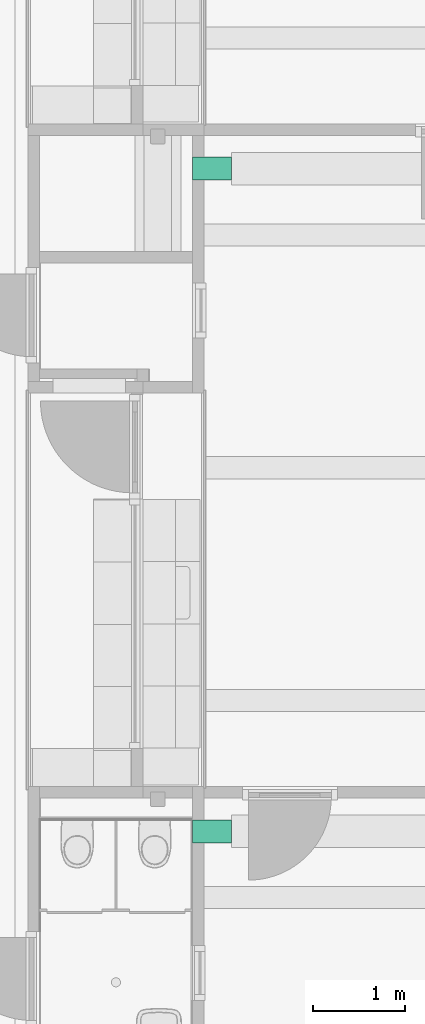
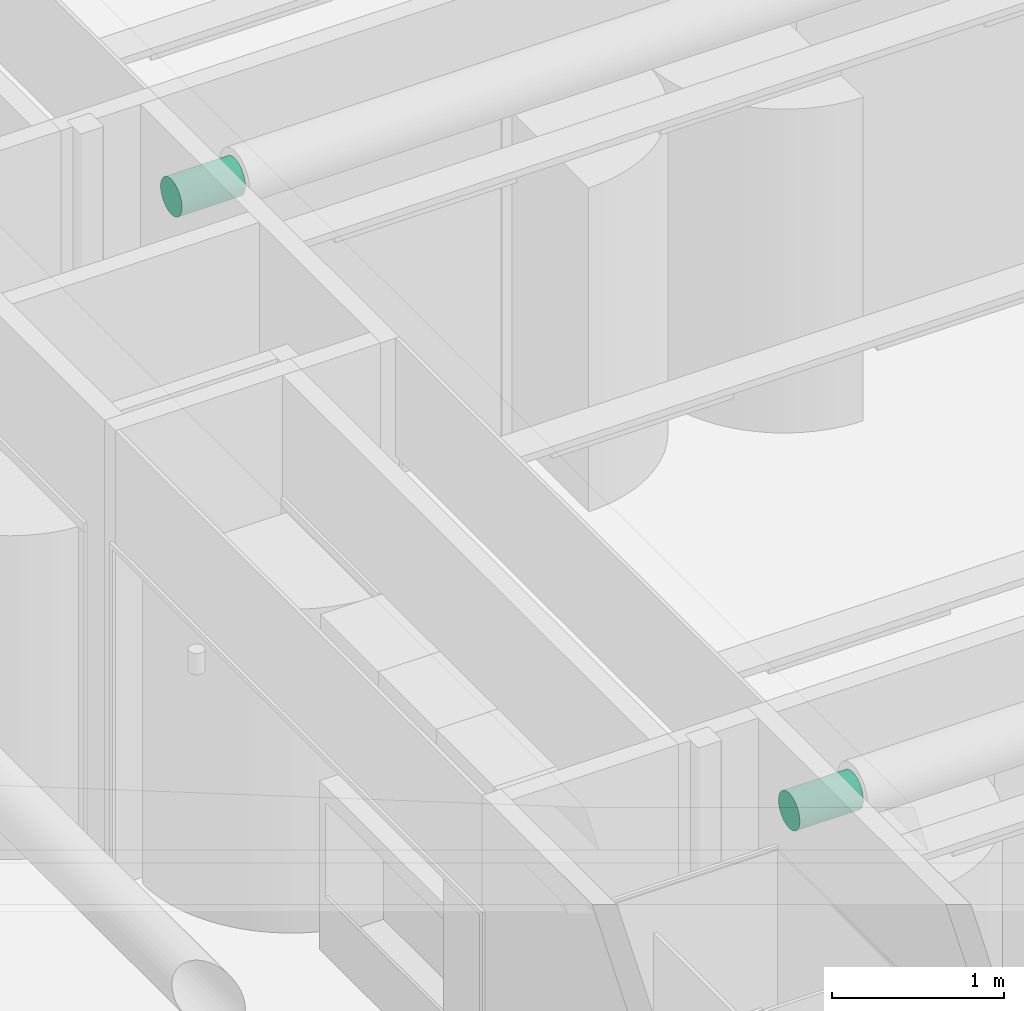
# One storey, part 78 of 128: 2 distribution control elements.
"""IFC2X3 building model written with IfcOpenShell, lengths in millimetres."""

from ifc_helpers import new_model, entity, si_unit, converted_unit, derived_unit, direction, frame, origin, origin_2d_with_axis, place, context, subcontext, project, spatial, circle, extrude, source, transform, mapped, material, type_object, type_shapes, element, save


model = new_model("IFC2X3")

# Units and contexts
model_context = context("Model", 3, precision=0.01, world=origin(), true_north=direction((6.123031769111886e-17, 1.0)))
body_context = subcontext(model_context, "Body", "Model", "MODEL_VIEW")
ifc_project = project(units=[si_unit("LENGTHUNIT", "METRE", prefix="MILLI"), si_unit("AREAUNIT", "SQUARE_METRE"), si_unit("VOLUMEUNIT", "CUBIC_METRE"), converted_unit("PLANEANGLEUNIT", "DEGREE", entity("IfcRatioMeasure", 0.017453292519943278), si_unit("PLANEANGLEUNIT", "RADIAN"), dimensions=[0, 0, 0, 0, 0, 0, 0]), si_unit("MASSUNIT", "GRAM", prefix="KILO"), derived_unit("MASSDENSITYUNIT", [(si_unit("MASSUNIT", "GRAM", prefix="KILO"), 1), (si_unit("LENGTHUNIT", "METRE"), -3)]), derived_unit("IONCONCENTRATIONUNIT", [(si_unit("MASSUNIT", "GRAM", prefix="KILO"), 1), (si_unit("LENGTHUNIT", "METRE"), -3)]), derived_unit("MOMENTOFINERTIAUNIT", [(si_unit("LENGTHUNIT", "METRE"), 4)]), si_unit("TIMEUNIT", "SECOND"), si_unit("FREQUENCYUNIT", "HERTZ"), si_unit("THERMODYNAMICTEMPERATUREUNIT", "DEGREE_CELSIUS"), derived_unit("THERMALTRANSMITTANCEUNIT", [(si_unit("MASSUNIT", "GRAM", prefix="KILO"), 1), (si_unit("THERMODYNAMICTEMPERATUREUNIT", "KELVIN"), -1), (si_unit("TIMEUNIT", "SECOND"), -3)]), derived_unit("THERMALCONDUCTANCEUNIT", [(si_unit("MASSUNIT", "GRAM", prefix="KILO"), 1), (si_unit("THERMODYNAMICTEMPERATUREUNIT", "KELVIN"), -1), (si_unit("TIMEUNIT", "SECOND"), -3), (si_unit("LENGTHUNIT", "METRE"), 1)]), derived_unit("VOLUMETRICFLOWRATEUNIT", [(si_unit("LENGTHUNIT", "METRE"), 3), (si_unit("TIMEUNIT", "SECOND"), -1)]), derived_unit("MASSFLOWRATEUNIT", [(si_unit("MASSUNIT", "GRAM", prefix="KILO"), 1), (si_unit("TIMEUNIT", "SECOND"), -1)]), derived_unit("ROTATIONALFREQUENCYUNIT", [(si_unit("TIMEUNIT", "SECOND"), -1)]), si_unit("ELECTRICCURRENTUNIT", "AMPERE"), si_unit("ELECTRICVOLTAGEUNIT", "VOLT"), si_unit("POWERUNIT", "WATT"), si_unit("FORCEUNIT", "NEWTON", prefix="KILO"), si_unit("ILLUMINANCEUNIT", "LUX"), si_unit("LUMINOUSFLUXUNIT", "LUMEN"), si_unit("LUMINOUSINTENSITYUNIT", "CANDELA"), derived_unit("USERDEFINED", [(si_unit("MASSUNIT", "GRAM", prefix="KILO"), -1), (si_unit("LENGTHUNIT", "METRE"), -2), (si_unit("TIMEUNIT", "SECOND"), 3), (si_unit("LUMINOUSFLUXUNIT", "LUMEN"), 1)]), derived_unit("USERDEFINED", [(si_unit("MASSUNIT", "GRAM", prefix="KILO"), 1), (si_unit("TIMEUNIT", "SECOND"), -3), (si_unit("LENGTHUNIT", "METRE"), 3), (si_unit("ELECTRICCURRENTUNIT", "AMPERE"), -2)]), derived_unit("SOUNDPOWERUNIT", [(si_unit("MASSUNIT", "GRAM", prefix="KILO"), 1), (si_unit("TIMEUNIT", "SECOND"), -3), (si_unit("LENGTHUNIT", "METRE"), 2)]), derived_unit("SOUNDPRESSUREUNIT", [(si_unit("MASSUNIT", "GRAM", prefix="KILO"), 1), (si_unit("LENGTHUNIT", "METRE"), -1), (si_unit("TIMEUNIT", "SECOND"), -2)]), derived_unit("LINEARVELOCITYUNIT", [(si_unit("LENGTHUNIT", "METRE"), 1), (si_unit("TIMEUNIT", "SECOND"), -1)]), si_unit("PRESSUREUNIT", "PASCAL"), derived_unit("USERDEFINED", [(si_unit("MASSUNIT", "GRAM", prefix="KILO"), 1), (si_unit("LENGTHUNIT", "METRE"), -2), (si_unit("TIMEUNIT", "SECOND"), -2)]), derived_unit("LINEARFORCEUNIT", [(si_unit("MASSUNIT", "GRAM", prefix="KILO"), 1), (si_unit("TIMEUNIT", "SECOND"), -2)]), derived_unit("PLANARFORCEUNIT", [(si_unit("MASSUNIT", "GRAM", prefix="KILO"), 1), (si_unit("LENGTHUNIT", "METRE"), -1), (si_unit("TIMEUNIT", "SECOND"), -2)]), derived_unit("SPECIFICHEATCAPACITYUNIT", [(si_unit("THERMODYNAMICTEMPERATUREUNIT", "KELVIN"), -1), (si_unit("LENGTHUNIT", "METRE"), 2), (si_unit("TIMEUNIT", "SECOND"), -2)]), derived_unit("HEATINGVALUEUNIT", [(si_unit("LENGTHUNIT", "METRE"), 2), (si_unit("TIMEUNIT", "SECOND"), -2)]), derived_unit("VAPORPERMEABILITYUNIT", [(si_unit("LENGTHUNIT", "METRE"), -1), (si_unit("TIMEUNIT", "SECOND"), 1)]), derived_unit("DYNAMICVISCOSITYUNIT", [(si_unit("MASSUNIT", "GRAM", prefix="KILO"), 1), (si_unit("TIMEUNIT", "SECOND"), -1), (si_unit("LENGTHUNIT", "METRE"), -1)]), derived_unit("THERMALEXPANSIONCOEFFICIENTUNIT", [(si_unit("THERMODYNAMICTEMPERATUREUNIT", "KELVIN"), -1)]), derived_unit("MODULUSOFELASTICITYUNIT", [(si_unit("MASSUNIT", "GRAM", prefix="KILO"), 1), (si_unit("LENGTHUNIT", "METRE"), -1), (si_unit("TIMEUNIT", "SECOND"), -2)]), derived_unit("ISOTHERMALMOISTURECAPACITYUNIT", [(si_unit("LENGTHUNIT", "METRE"), 3), (si_unit("MASSUNIT", "GRAM", prefix="KILO"), -1)]), derived_unit("MOISTUREDIFFUSIVITYUNIT", [(si_unit("TIMEUNIT", "SECOND"), -1), (si_unit("LENGTHUNIT", "METRE"), 2)])], contexts=[model_context])

# Site, building, storey
site_placement = place(None, frame((0.0, 300.0, 0.0)))
site = spatial("IfcSite", under=ifc_project, at=site_placement, Name="<Kadastrale nummers>", CompositionType="ELEMENT")
building_placement = place(site_placement, origin())
building = spatial("IfcBuilding", under=site, at=building_placement, CompositionType="ELEMENT")
storey_placement = place(building_placement, frame((0.0, 0.0, 3560.0000331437)))
storey = spatial("IfcBuildingStorey", under=building, at=storey_placement, Name="01 eerste verdieping", CompositionType="ELEMENT", Elevation=3560.0000331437)

# Distribution control elements
ifc_material = material(Name="<Unnamed>")
controller_type = type_object("IfcControllerType", Name="57_luchtbehandelings buis:Ø 250 op 2946", PredefinedType="NOTDEFINED", material=ifc_material)
shared_shape = source(origin(), body_context, "Body", "SweptSolid", [
    extrude(circle(Radius=125.00000000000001, at=origin_2d_with_axis()), frame((0.0, 0.0, 2800.0), z_axis=(1.0, 0.0, 0.0), x_axis=(0.0, 1.0, 0.0)), (0.0, 0.0, 1.0), 427.4999999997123),
])
type_shapes(controller_type, [shared_shape])
for number, where, z_axis, x_axis in (
    (1, (42202.49999999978, 23349.998623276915, 90.0000018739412), (0.0, 0.0, 1.0), (-1.0, 0.0, 0.0)),
    (2, (42202.49999999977, 16149.998623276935, 90.0000018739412), (0.0, 0.0, 1.0), (-1.0, 0.0, 0.0)),
):
    element("IfcDistributionControlElement", number, at=place(storey_placement, frame(where, z_axis=z_axis, x_axis=x_axis)), inside=storey, type_object=controller_type, material=ifc_material, Name="57_luchtbehandelings buis:Ø 250 op 2946", ObjectType="57_luchtbehandelings buis:Ø 250 op 2946", context=body_context, shape_type="MappedRepresentation", body=[
        mapped(shared_shape, transform((0.0, 0.0, 0.0), scale=1.0)),
    ])

save(model, "model.ifc")
